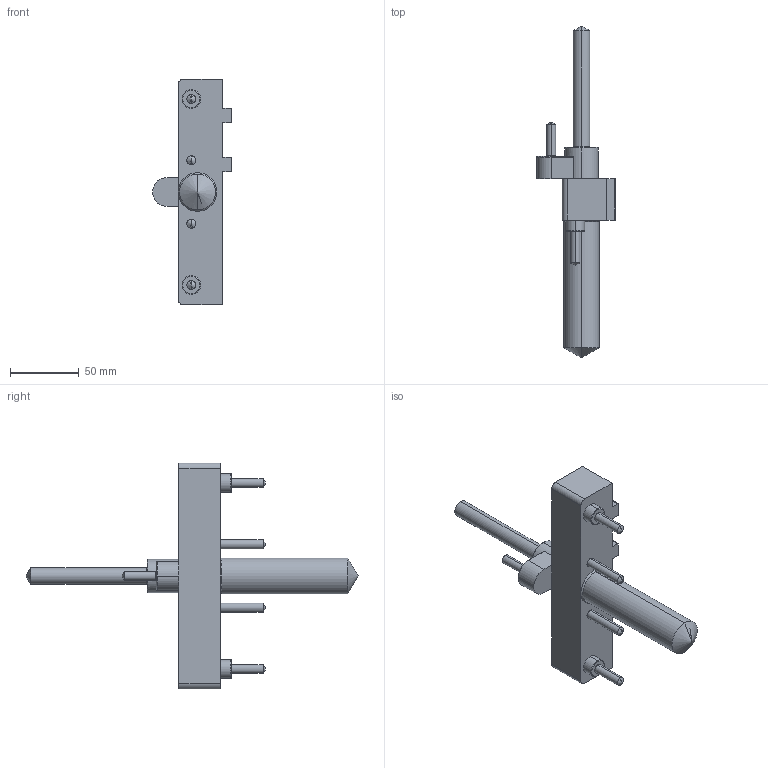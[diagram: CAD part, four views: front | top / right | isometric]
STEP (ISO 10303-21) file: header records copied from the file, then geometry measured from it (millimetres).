
FILE_DESCRIPTION (( 'STEP AP214' ), '1' );
FILE_NAME ('LS20075L_False_cut_LS.STEP', '2024-09-17T10:44:52', ( '' ), ( '' ), 'SwSTEP 2.0', 'SolidWorks 2021', '' );
FILE_SCHEMA (( 'AUTOMOTIVE_DESIGN' ));
Length unit declared in the file: millimetre
Products named in the file (1): LS20075L_False_cut_LS
Bounding box: 57 x 241 x 164 mm (x, y, z)
Volume: 245521.1 mm3; surface area: 40328.5 mm2
Topology: 1 solids, 1 shells, 83 faces, 208 edges, 121 vertices
Faces by surface type: cylinder 30, plane 25, cone 20, torus 8
Entity records: 2422 total; most frequent: DIRECTION 442, CARTESIAN_POINT 421, ORIENTED_EDGE 388, EDGE_CURVE 194, AXIS2_PLACEMENT_3D 166, VERTEX_POINT 121, LINE 110, VECTOR 110
